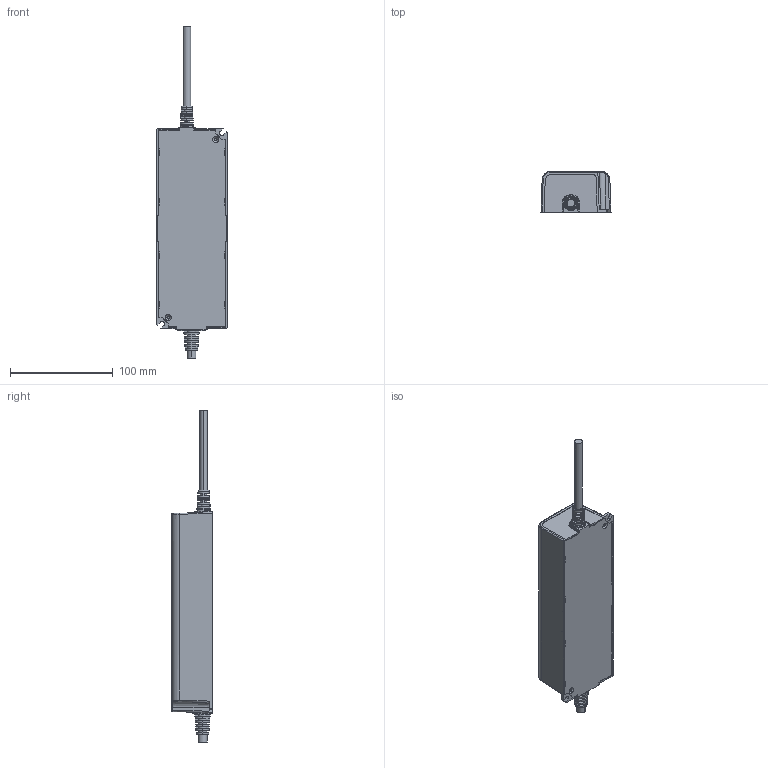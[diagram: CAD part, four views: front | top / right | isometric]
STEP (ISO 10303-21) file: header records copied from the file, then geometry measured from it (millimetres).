
FILE_DESCRIPTION((''),'2;1');
FILE_NAME('OWA-200_ASM','2025-12-23T10:25:45',('shalinice'),(''),'CREO PARAMETRIC BY PTC INC, 2017110','CREO PARAMETRIC BY PTC INC, 2017110','');
FILE_SCHEMA(('AUTOMOTIVE_DESIGN { 1 0 10303 214 1 1 1 1 }'));
Length unit declared in the file: millimetre
Products named in the file (6): 00; SR1; XC1-53610_ASM; BOTTOM; SR3; OWA-200_ASM
Assembly tree (5 placements, depth 3):
  OWA-200_ASM
    00
    XC1-53610_ASM
      SR1
    BOTTOM
    SR3
Bounding box: 68 x 39.5 x 322.45 mm (x, y, z)
Volume: 121237.3 mm3; surface area: 97758.1 mm2
Topology: 4 solids, 4 shells, 818 faces, 2268 edges, 1494 vertices
Faces by surface type: plane 486, cylinder 172, cone 66, torus 46, bspline 46, extrusion 2
Entity records: 33468 total; most frequent: CARTESIAN_POINT 7566, ORIENTED_EDGE 4536, DIRECTION 4014, EDGE_CURVE 2268, VERTEX_POINT 1494, VECTOR 1432, LINE 1430, AXIS2_PLACEMENT_3D 1291
